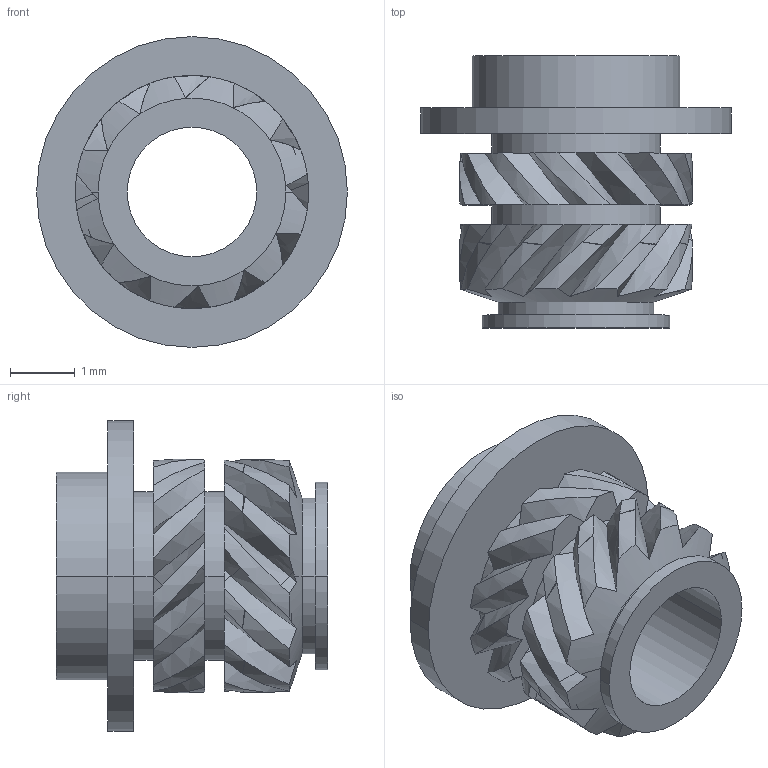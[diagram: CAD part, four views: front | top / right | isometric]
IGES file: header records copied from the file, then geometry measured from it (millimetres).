
Start section:  PTC IGES file: f20-36-42_prt.igs
Global section: file name: f20-36-42_prt.igs; native system: Pro/ENGINEER by Parametric Technology Corporation; preprocessor: 2000030; author: ECaille; organization: Unknown; date: 000803.091942; units: millimetre
Bounding box: 4.8 x 4.2 x 4.8 mm (x, y, z)
Surface area: 130 mm2 (no closed solid volume)
Topology: 0 solids, 0 shells, 144 faces, 1243 edges, 1672 vertices
Faces by surface type: bspline 104, revolution 40
